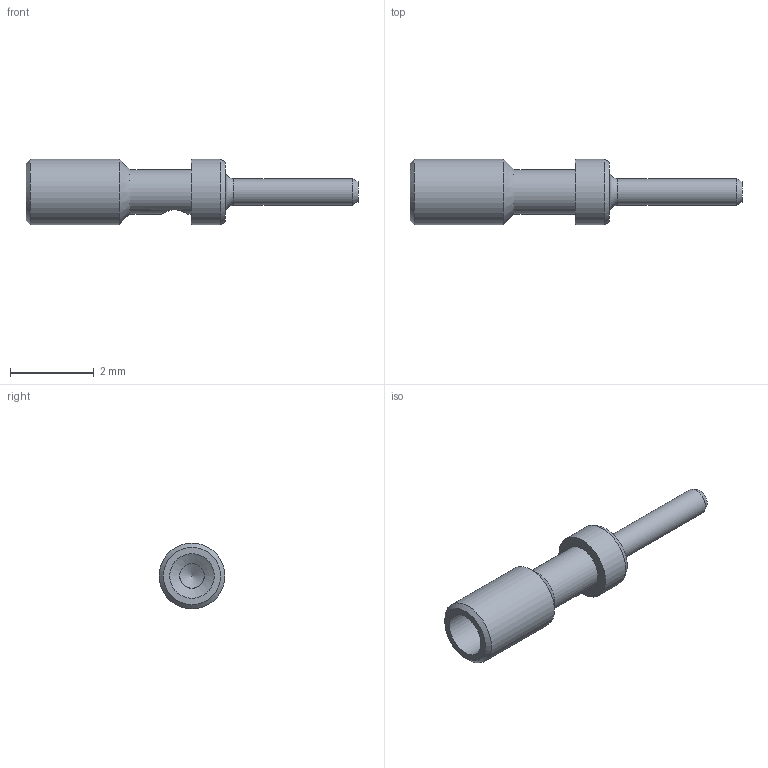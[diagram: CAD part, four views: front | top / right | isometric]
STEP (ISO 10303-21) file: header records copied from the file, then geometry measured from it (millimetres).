
FILE_DESCRIPTION(/* description */ (''),/* implementation_level */ '2;1');
FILE_NAME(/* name */ '\\Snap1\dwgs\460\Web models\460305001.stp',/* time_stamp */ '2015-09-22T08:45:24+01:00',/* author */ ('paulk'),/* organization */ (''),/* preprocessor_version */ 'ST-DEVELOPER v15.2',/* originating_system */ 'Autodesk Inventor 2014',/* authorisation */ '');
FILE_SCHEMA (('CONFIG_CONTROL_DESIGN'));
Length unit declared in the file: millimetre
Products named in the file (1): 460305001
Bounding box: 7.95 x 1.57 x 1.57 mm (x, y, z)
Volume: 6 mm3; surface area: 42.6 mm2
Topology: 1 solids, 1 shells, 20 faces, 41 edges, 24 vertices
Faces by surface type: cylinder 7, plane 6, cone 6, torus 1
Full cylindrical faces by diameter (mm): 0.584 x1, 0.635 x2, 1.067 x2, 1.575 x2
Entity records: 523 total; most frequent: CARTESIAN_POINT 148, DIRECTION 80, ORIENTED_EDGE 46, AXIS2_PLACEMENT_3D 39, EDGE_LOOP 38, EDGE_CURVE 23, FACE_BOUND 21, VERTEX_POINT 21
